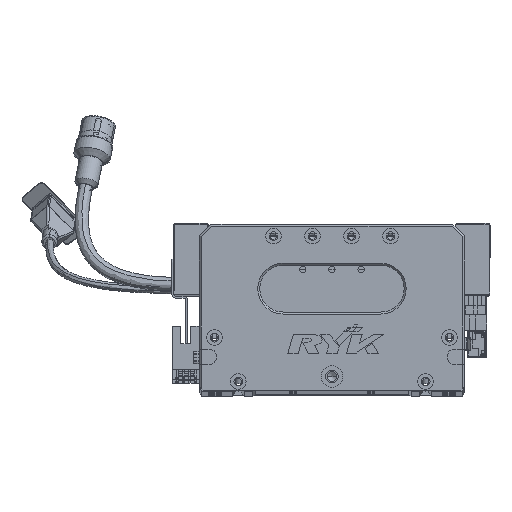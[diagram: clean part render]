
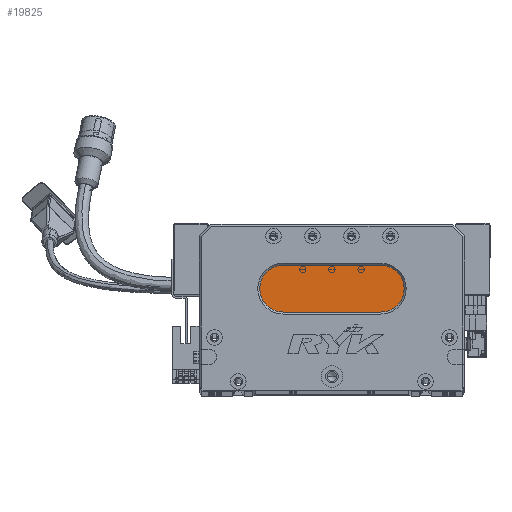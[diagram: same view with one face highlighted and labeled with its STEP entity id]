
A CAD part, top view. The second image highlights one B-rep face of the part: STEP entity #19825.
In plain terms, the highlighted planar face has unit normal (0, 0, 1) as drawn and (0, 0, -1) by its records, which use the part's own axes.
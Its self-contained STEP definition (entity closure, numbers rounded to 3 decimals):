
#177 = EDGE_LOOP ( 'NONE', ( #80363, #29596, #67962, #46867, #70792 ) ) ;
#3509 = FACE_OUTER_BOUND ( 'NONE', #177, .T. ) ;
#5259 = CARTESIAN_POINT ( 'NONE',  ( 93., 40., 13. ) ) ;
#5746 = DIRECTION ( 'NONE',  ( -1., 0., 0. ) ) ;
#6074 = DIRECTION ( 'NONE',  ( -1., 0., 0. ) ) ;
#9369 = EDGE_CURVE ( 'NONE', #94438, #101473, #26829, .T. ) ;
#11514 = AXIS2_PLACEMENT_3D ( 'NONE', #94677, #31510, #31866 ) ;
#12427 = EDGE_CURVE ( 'NONE', #36544, #94438, #91675, .T. ) ;
#13879 = AXIS2_PLACEMENT_3D ( 'NONE', #53259, #54309, #5746 ) ;
#19825 = ADVANCED_FACE ( 'NONE', ( #3509 ), #80352, .T. ) ;
#22185 = DIRECTION ( 'NONE',  ( -1., 0., 0. ) ) ;
#22518 = AXIS2_PLACEMENT_3D ( 'NONE', #93811, #53615, #6074 ) ;
#26213 = DIRECTION ( 'NONE',  ( 0., 0., -1. ) ) ;
#26829 = CIRCLE ( 'NONE', #11514, 12. ) ;
#29596 = ORIENTED_EDGE ( 'NONE', *, *, #57128, .T. ) ;
#30754 = VECTOR ( 'NONE', #22185, 1000. ) ;
#31510 = DIRECTION ( 'NONE',  ( 0., 0., -1. ) ) ;
#31866 = DIRECTION ( 'NONE',  ( -1., 0., 0. ) ) ;
#36431 = CARTESIAN_POINT ( 'NONE',  ( 93., 40., 13. ) ) ;
#36544 = VERTEX_POINT ( 'NONE', #64449 ) ;
#39819 = VERTEX_POINT ( 'NONE', #72010 ) ;
#43364 = AXIS2_PLACEMENT_3D ( 'NONE', #89368, #26213, #66109 ) ;
#43546 = EDGE_CURVE ( 'NONE', #92693, #36544, #66565, .T. ) ;
#43617 = EDGE_CURVE ( 'NONE', #39819, #92693, #47921, .T. ) ;
#44774 = CARTESIAN_POINT ( 'NONE',  ( 93., 64., 13. ) ) ;
#45795 = DIRECTION ( 'NONE',  ( 1., 0., 0. ) ) ;
#46867 = ORIENTED_EDGE ( 'NONE', *, *, #43546, .T. ) ;
#47921 = CIRCLE ( 'NONE', #13879, 12. ) ;
#53259 = CARTESIAN_POINT ( 'NONE',  ( 43., 52., 13. ) ) ;
#53615 = DIRECTION ( 'NONE',  ( 0., 0., -1. ) ) ;
#54309 = DIRECTION ( 'NONE',  ( 0., 0., -1. ) ) ;
#57128 = EDGE_CURVE ( 'NONE', #101473, #39819, #90315, .T. ) ;
#64449 = CARTESIAN_POINT ( 'NONE',  ( 43., 64., 13. ) ) ;
#66109 = DIRECTION ( 'NONE',  ( -1., 0., 0. ) ) ;
#66565 = CIRCLE ( 'NONE', #22518, 12. ) ;
#67962 = ORIENTED_EDGE ( 'NONE', *, *, #43617, .T. ) ;
#70792 = ORIENTED_EDGE ( 'NONE', *, *, #12427, .T. ) ;
#72010 = CARTESIAN_POINT ( 'NONE',  ( 43., 40., 13. ) ) ;
#75810 = CARTESIAN_POINT ( 'NONE',  ( 93., 64., 13. ) ) ;
#80352 = PLANE ( 'NONE',  #43364 ) ;
#80363 = ORIENTED_EDGE ( 'NONE', *, *, #9369, .T. ) ;
#84243 = VECTOR ( 'NONE', #45795, 1000. ) ;
#89368 = CARTESIAN_POINT ( 'NONE',  ( 93., 52., 13. ) ) ;
#90315 = LINE ( 'NONE', #36431, #30754 ) ;
#91675 = LINE ( 'NONE', #44774, #84243 ) ;
#92693 = VERTEX_POINT ( 'NONE', #102728 ) ;
#93811 = CARTESIAN_POINT ( 'NONE',  ( 43., 52., 13. ) ) ;
#94438 = VERTEX_POINT ( 'NONE', #75810 ) ;
#94677 = CARTESIAN_POINT ( 'NONE',  ( 93., 52., 13. ) ) ;
#101473 = VERTEX_POINT ( 'NONE', #5259 ) ;
#102728 = CARTESIAN_POINT ( 'NONE',  ( 31., 52., 13. ) ) ;
